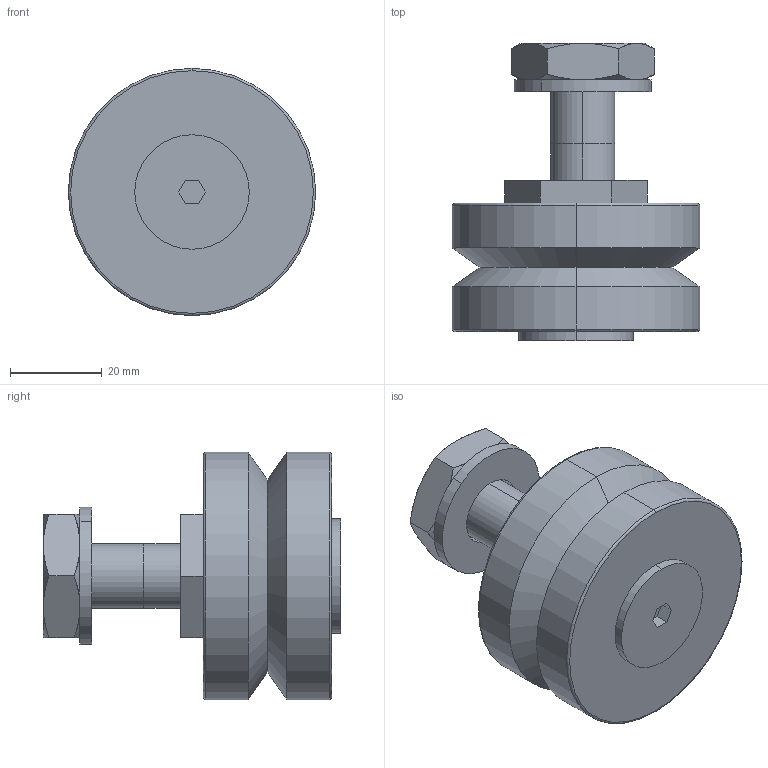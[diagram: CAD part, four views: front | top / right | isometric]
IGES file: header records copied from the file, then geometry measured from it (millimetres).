
Start section: 3D InterOp IGES (Version 21 0 1), Spatial Corp. Copyright (c) 1999-2007.
Global section: file name: NAL-54-E.igs; native system: Spatial Corp.; preprocessor: 3D InterOp GENERIC/IGES 3.0; author: Noname; organization: Noname; date: 20220311.162626; units: millimetre
Bounding box: 54 x 64.95 x 54 mm (x, y, z)
Surface area: 15524.4 mm2 (no closed solid volume)
Topology: 0 solids, 0 shells, 74 faces, 328 edges, 328 vertices
Faces by surface type: revolution 40, extrusion 34
